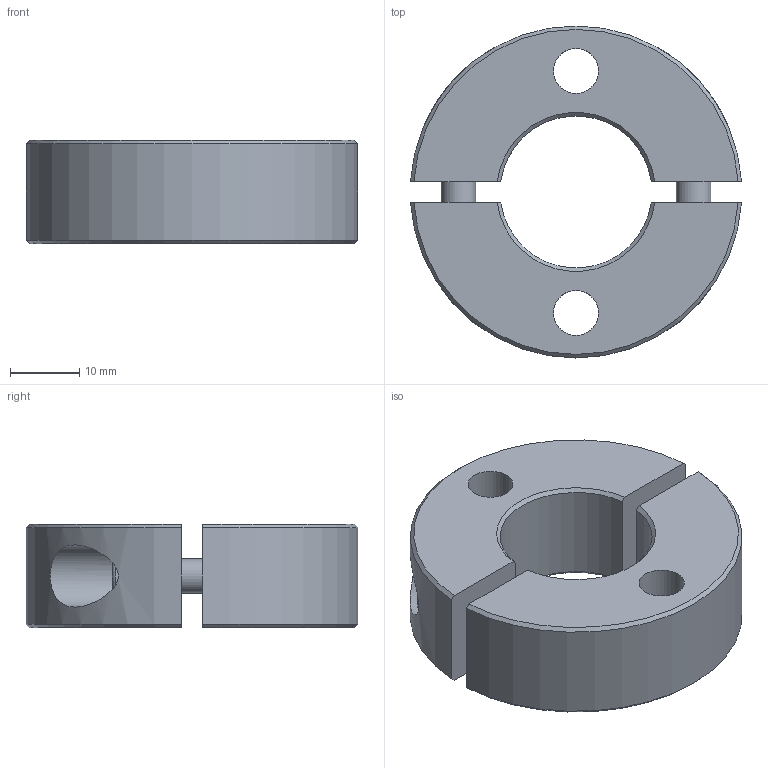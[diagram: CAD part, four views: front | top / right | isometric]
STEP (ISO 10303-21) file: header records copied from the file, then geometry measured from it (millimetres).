
FILE_DESCRIPTION( ( 'STEP AP203' ), '1' );
FILE_NAME( 'C:/Temp/Ganter_Step_05_03_2020/data/3_2/gn7072_2/Split Stainless Steel-Set collar GN 7072.2-48-B22-NI-A.stp', '2020-03-13T05:40:51', ( 'License CC BY-ND 4.0' ), ( 'CADENAS' ), ' ', 'PARTsolutions', ' ' );
FILE_SCHEMA( ( 'CONFIG_CONTROL_DESIGN' ) );
Length unit declared in the file: millimetre
Products named in the file (1): _Split Stainless Steel-Set collar GN 7072.2-48-B22-NI-A
Bounding box: 47.91 x 48 x 15 mm (x, y, z)
Volume: 18503.2 mm3; surface area: 8134.2 mm2
Topology: 1 solids, 1 shells, 52 faces, 124 edges, 84 vertices
Faces by surface type: plane 28, cylinder 14, cone 8, torus 2
Full cylindrical faces by diameter (mm): 5 x2, 5.4 x2, 6.5 x2, 8.5 x2, 9 x2
Entity records: 1616 total; most frequent: CARTESIAN_POINT 431, DIRECTION 230, ORIENTED_EDGE 212, EDGE_CURVE 106, AXIS2_PLACEMENT_3D 89, EDGE_LOOP 80, VERTEX_POINT 78, FACE_OUTER_BOUND 64
